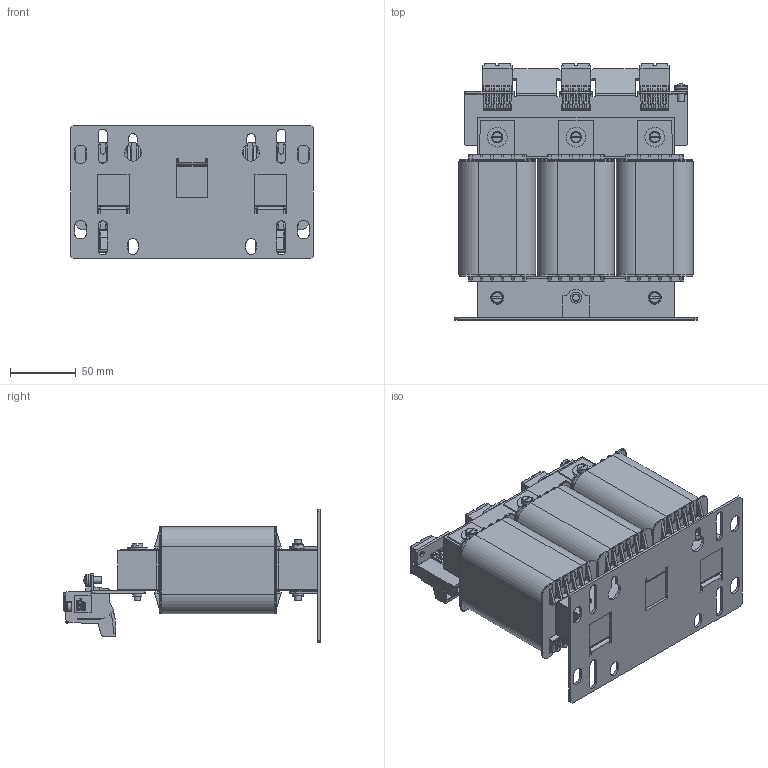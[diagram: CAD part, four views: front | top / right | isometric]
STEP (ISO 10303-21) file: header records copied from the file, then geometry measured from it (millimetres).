
FILE_DESCRIPTION (( 'STEP AP214' ), '1' );
FILE_NAME ('PCT-045.STEP', '2015-04-28T10:55:36', ( 'EDV' ), ( 'Microsoft' ), 'SwSTEP 2.0', 'SolidWorks 2014', '' );
FILE_SCHEMA (( 'AUTOMOTIVE_DESIGN' ));
Length unit declared in the file: millimetre
Products named in the file (13): UI90-31,5-oD; #144-0148; #080-0546; #040-0876; PCT-045; slotted cheese head screw_din_ISO 1207 - M5 x 40 --- 40N; plain washer large_din_Washer DIN 9021 - 5.3; pan head cross recess screw_din_ISO 7045 - M5 x 10 - Z --- 10N; curved spring lock washer_din_Spring washer DIN 128 - A5; plain washer grade a_din_Washer DIN 125 - A 5.3; 3UI90-31,5_Luftspalt unten 1mm oben 1,4,mm; BTK 10_2 +2202-0024; Wickel 3UI 90_31,5
Assembly tree (29 placements, depth 2):
  PCT-045
    #040-0876
    #080-0546
    #144-0148  x2
    UI90-31,5-oD  x3
    Wickel 3UI 90_31,5  x3
    BTK 10_2 +2202-0024  x3
    3UI90-31,5_Luftspalt unten 1mm oben 1,4,mm
    plain washer grade a_din_Washer DIN 125 - A 5.3  x4
    curved spring lock washer_din_Spring washer DIN 128 - A5
    pan head cross recess screw_din_ISO 7045 - M5 x 10 - Z --- 10N
    plain washer large_din_Washer DIN 9021 - 5.3  x3
    slotted cheese head screw_din_ISO 1207 - M5 x 40 --- 40N  x6
Bounding box: 185 x 195.4 x 102 mm (x, y, z)
Volume: 1374283.3 mm3; surface area: 469734.5 mm2
Topology: 35 solids, 35 shells, 8066 faces, 22089 edges, 14236 vertices
Faces by surface type: plane 6178, cylinder 1230, bspline 330, torus 316, cone 11, sphere 1
Full cylindrical faces by diameter (mm): 3.334 x1, 4.6 x5, 5 x7, 5.3 x7, 5.5 x3, 6.2 x6, 6.95 x1, 7 x3, 7.15 x1, 8.5 x9, 9.5 x1, 10 x4, 15 x3
Entity records: 113809 total; most frequent: CARTESIAN_POINT 27739, ORIENTED_EDGE 17762, DIRECTION 15622, EDGE_CURVE 8881, LINE 7436, VECTOR 7436, VERTEX_POINT 5761, AXIS2_PLACEMENT_3D 4093
